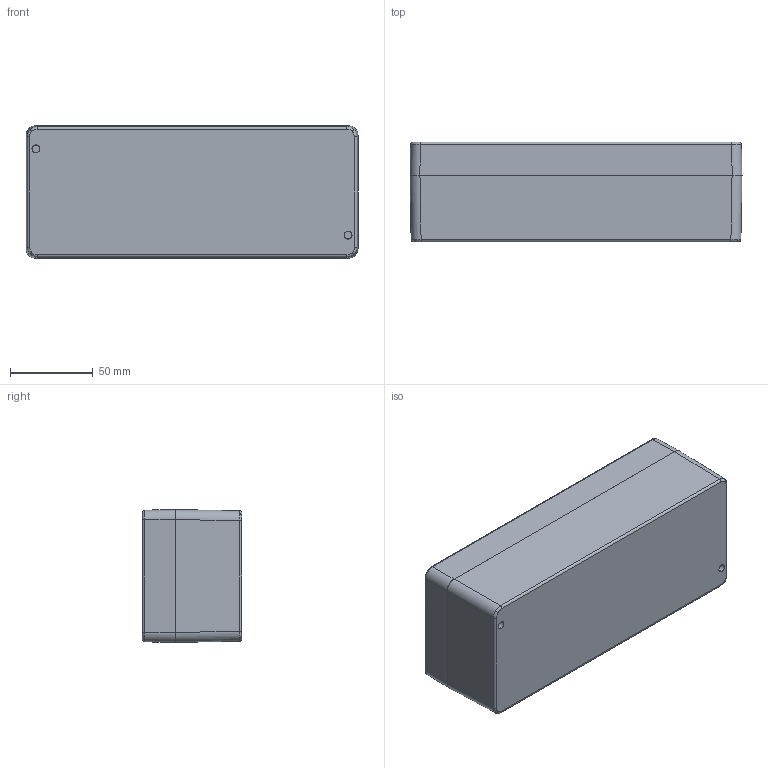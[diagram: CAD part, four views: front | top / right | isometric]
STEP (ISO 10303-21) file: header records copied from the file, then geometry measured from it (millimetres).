
FILE_DESCRIPTION (( 'STEP AP203' ), '1' );
FILE_NAME ('BB034.STEP', '2024-12-28T13:36:47', ( '' ), ( '' ), 'SwSTEP 2.0', 'SolidWorks 2019', '' );
FILE_SCHEMA (( 'CONFIG_CONTROL_DESIGN' ));
Length unit declared in the file: millimetre
Products named in the file (3): LID_200X80X20; base_200x80x60; BB034
Assembly tree (2 placements, depth 2):
  BB034
    base_200x80x60
    LID_200X80X20
Bounding box: 200 x 60 x 80 mm (x, y, z)
Volume: 265249.3 mm3; surface area: 130246.3 mm2
Topology: 2 solids, 2 shells, 539 faces, 1328 edges, 815 vertices
Faces by surface type: plane 182, cone 153, cylinder 118, bspline 48, torus 35, sphere 3
Entity records: 17183 total; most frequent: CARTESIAN_POINT 4389, ORIENTED_EDGE 2612, DIRECTION 2589, EDGE_CURVE 1306, AXIS2_PLACEMENT_3D 960, VERTEX_POINT 815, VECTOR 669, LINE 669
